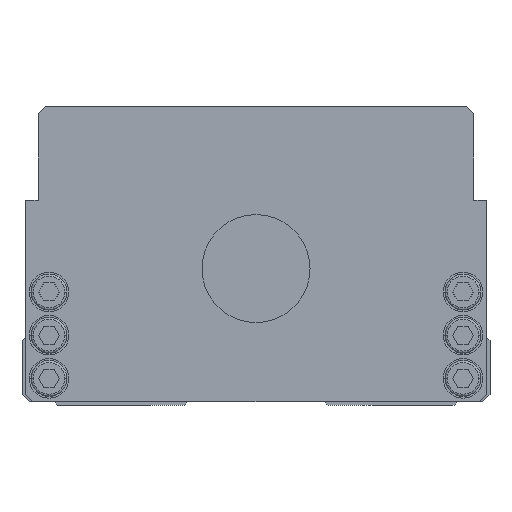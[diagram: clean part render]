
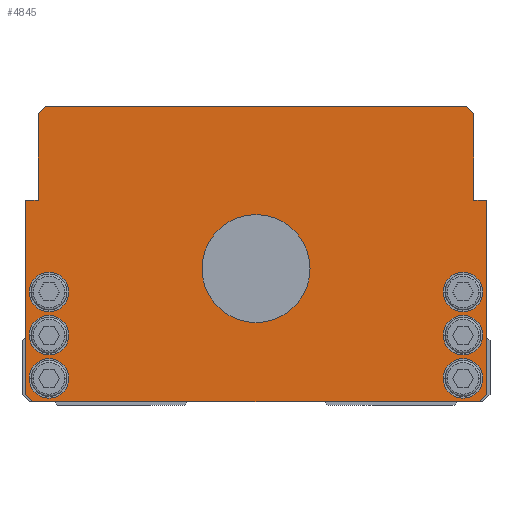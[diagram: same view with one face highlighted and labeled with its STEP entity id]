
A CAD part, front view. The second image highlights one B-rep face of the part: STEP entity #4845.
In plain terms, the highlighted planar face has unit normal (0, -1, 0).
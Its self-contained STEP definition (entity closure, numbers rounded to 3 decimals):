
#4309=VERTEX_POINT('',#12632);
#4655=EDGE_CURVE('',#8607,#12095,#13024,.T.);
#4713=VERTEX_POINT('',#13088);
#4845=ADVANCED_FACE('',(#13245,#13246,#13247,#13248,#13249,#13250,#13251,#13252),#13253,.T.);
#4863=VERTEX_POINT('',#13276);
#5027=EDGE_CURVE('',#9937,#6207,#13456,.T.);
#5225=EDGE_CURVE('',#11417,#11045,#13674,.T.);
#5279=EDGE_CURVE('',#12095,#8607,#13733,.T.);
#5379=EDGE_CURVE('',#11213,#6061,#13842,.T.);
#5443=EDGE_CURVE('',#6749,#10623,#13916,.T.);
#5445=EDGE_CURVE('',#9155,#4713,#13918,.T.);
#5621=EDGE_CURVE('',#9533,#8553,#14110,.T.);
#5967=EDGE_CURVE('',#6207,#9937,#14499,.T.);
#6009=VERTEX_POINT('',#14546);
#6033=EDGE_CURVE('',#12393,#4309,#14571,.T.);
#6061=VERTEX_POINT('',#14601);
#6207=VERTEX_POINT('',#14759);
#6519=VERTEX_POINT('',#15099);
#6749=VERTEX_POINT('',#15351);
#6915=VERTEX_POINT('',#15535);
#7019=EDGE_CURVE('',#4863,#11863,#15644,.T.);
#7235=EDGE_CURVE('',#8553,#10627,#15885,.T.);
#7515=VERTEX_POINT('',#16198);
#7727=EDGE_CURVE('',#6061,#11213,#16434,.T.);
#7807=EDGE_CURVE('',#6915,#12211,#16529,.T.);
#8553=VERTEX_POINT('',#17352);
#8607=VERTEX_POINT('',#17413);
#8659=EDGE_CURVE('',#8887,#6009,#17467,.T.);
#8887=VERTEX_POINT('',#17717);
#8929=EDGE_CURVE('',#11863,#8955,#17765,.T.);
#8955=VERTEX_POINT('',#17793);
#9039=EDGE_CURVE('',#8955,#7515,#17890,.T.);
#9105=EDGE_CURVE('',#11045,#9533,#17960,.T.);
#9155=VERTEX_POINT('',#18013);
#9231=EDGE_CURVE('',#6519,#4863,#18103,.T.);
#9533=VERTEX_POINT('',#18445);
#9561=EDGE_CURVE('',#7515,#11417,#18477,.T.);
#9937=VERTEX_POINT('',#18893);
#10623=VERTEX_POINT('',#19663);
#10627=VERTEX_POINT('',#19667);
#10991=EDGE_CURVE('',#10623,#6749,#20068,.T.);
#10995=EDGE_CURVE('',#4713,#9155,#20073,.T.);
#11029=EDGE_CURVE('',#4309,#6519,#20113,.T.);
#11045=VERTEX_POINT('',#20129);
#11213=VERTEX_POINT('',#20317);
#11417=VERTEX_POINT('',#20549);
#11477=EDGE_CURVE('',#10627,#12393,#20613,.T.);
#11863=VERTEX_POINT('',#21051);
#12095=VERTEX_POINT('',#21314);
#12143=EDGE_CURVE('',#6009,#8887,#21365,.T.);
#12169=EDGE_CURVE('',#12211,#6915,#21392,.T.);
#12211=VERTEX_POINT('',#21446);
#12393=VERTEX_POINT('',#21643);
#12632=CARTESIAN_POINT('',(62.0,0.0,1.0));
#13024=CIRCLE('',#22490,5.5);
#13088=CARTESIAN_POINT('',(-63.0,0.0,7.5));
#13245=FACE_BOUND('',#22768,.T.);
#13246=FACE_BOUND('',#22769,.T.);
#13247=FACE_BOUND('',#22770,.T.);
#13248=FACE_BOUND('',#22771,.T.);
#13249=FACE_BOUND('',#22772,.T.);
#13250=FACE_BOUND('',#22773,.T.);
#13251=FACE_BOUND('',#22774,.T.);
#13252=FACE_OUTER_BOUND('',#22775,.T.);
#13253=PLANE('',#22776);
#13276=CARTESIAN_POINT('',(-64.0,0.0,3.0));
#13456=CIRCLE('',#23048,5.5);
#13674=LINE('',#23354,#23355);
#13733=CIRCLE('',#23431,5.5);
#13842=CIRCLE('',#23580,15.0);
#13916=CIRCLE('',#23682,5.5);
#13918=CIRCLE('',#23685,5.5);
#14110=LINE('',#23960,#23961);
#14499=CIRCLE('',#24495,5.5);
#14546=CARTESIAN_POINT('',(52.0,0.0,19.5));
#14571=LINE('',#24601,#24602);
#14601=CARTESIAN_POINT('',(15.0,0.0,38.0));
#14759=CARTESIAN_POINT('',(52.0,0.0,31.5));
#15099=CARTESIAN_POINT('',(-62.0,0.0,1.0));
#15351=CARTESIAN_POINT('',(-63.0,0.0,19.5));
#15535=CARTESIAN_POINT('',(-52.0,0.0,31.5));
#15644=LINE('',#26111,#26112);
#15885=LINE('',#26453,#26454);
#16198=CARTESIAN_POINT('',(-60.5,0.0,81.0));
#16434=CIRCLE('',#27192,15.0);
#16529=CIRCLE('',#27314,5.5);
#17352=CARTESIAN_POINT('',(60.5,0.0,57.0));
#17413=CARTESIAN_POINT('',(52.0,0.0,7.5));
#17467=CIRCLE('',#28623,5.5);
#17717=CARTESIAN_POINT('',(63.0,0.0,19.5));
#17765=LINE('',#29034,#29035);
#17793=CARTESIAN_POINT('',(-60.5,0.0,57.0));
#17890=LINE('',#29196,#29197);
#17960=LINE('',#29298,#29299);
#18013=CARTESIAN_POINT('',(-52.0,0.0,7.5));
#18103=LINE('',#29503,#29504);
#18445=CARTESIAN_POINT('',(60.5,0.0,81.0));
#18477=LINE('',#30005,#30006);
#18893=CARTESIAN_POINT('',(63.0,0.0,31.5));
#19663=CARTESIAN_POINT('',(-52.0,0.0,19.5));
#19667=CARTESIAN_POINT('',(64.0,0.0,57.0));
#20068=CIRCLE('',#32169,5.5);
#20073=CIRCLE('',#32175,5.5);
#20113=LINE('',#32230,#32231);
#20129=CARTESIAN_POINT('',(58.5,0.0,83.0));
#20317=CARTESIAN_POINT('',(-15.0,0.0,38.0));
#20549=CARTESIAN_POINT('',(-58.5,0.0,83.0));
#20613=LINE('',#32892,#32893);
#21051=CARTESIAN_POINT('',(-64.0,0.0,57.0));
#21314=CARTESIAN_POINT('',(63.0,0.0,7.5));
#21365=CIRCLE('',#33914,5.5);
#21392=CIRCLE('',#33955,5.5);
#21446=CARTESIAN_POINT('',(-63.0,0.0,31.5));
#21643=CARTESIAN_POINT('',(64.0,0.0,3.0));
#22490=AXIS2_PLACEMENT_3D('',#35033,#35034,#35035);
#22768=EDGE_LOOP('',(#35274,#35275));
#22769=EDGE_LOOP('',(#35276,#35277));
#22770=EDGE_LOOP('',(#35278,#35279));
#22771=EDGE_LOOP('',(#35280,#35281));
#22772=EDGE_LOOP('',(#35282,#35283));
#22773=EDGE_LOOP('',(#35284,#35285));
#22774=EDGE_LOOP('',(#35286,#35287));
#22775=EDGE_LOOP('',(#35288,#35289,#35290,#35291,#35292,#35293,#35294,#35295,#35296,#35297,#35298,#35299));
#22776=AXIS2_PLACEMENT_3D('',#35300,#35301,#35302);
#23048=AXIS2_PLACEMENT_3D('',#35549,#35550,#35551);
#23354=CARTESIAN_POINT('',(58.5,0.0,83.0));
#23355=VECTOR('',#35821,1.0);
#23431=AXIS2_PLACEMENT_3D('',#35883,#35884,#35885);
#23580=AXIS2_PLACEMENT_3D('',#36003,#36004,#36005);
#23682=AXIS2_PLACEMENT_3D('',#36090,#36091,#36092);
#23685=AXIS2_PLACEMENT_3D('',#36093,#36094,#36095);
#23960=CARTESIAN_POINT('',(60.5,0.0,57.0));
#23961=VECTOR('',#36291,1.0);
#24495=AXIS2_PLACEMENT_3D('',#36819,#36820,#36821);
#24601=CARTESIAN_POINT('',(62.0,0.0,1.0));
#24602=VECTOR('',#36904,1.);
#26111=CARTESIAN_POINT('',(-64.0,0.0,57.0));
#26112=VECTOR('',#38064,1.0);
#26453=CARTESIAN_POINT('',(64.0,0.0,57.0));
#26454=VECTOR('',#38334,1.0);
#27192=AXIS2_PLACEMENT_3D('',#38954,#38955,#38956);
#27314=AXIS2_PLACEMENT_3D('',#39110,#39111,#39112);
#28623=AXIS2_PLACEMENT_3D('',#40103,#40104,#40105);
#29034=CARTESIAN_POINT('',(-60.5,0.0,57.0));
#29035=VECTOR('',#40444,1.0);
#29196=CARTESIAN_POINT('',(-60.5,0.0,81.0));
#29197=VECTOR('',#40615,1.0);
#29298=CARTESIAN_POINT('',(60.5,0.0,81.0));
#29299=VECTOR('',#40686,1.);
#29503=CARTESIAN_POINT('',(-64.0,0.0,3.0));
#29504=VECTOR('',#40875,1.);
#30005=CARTESIAN_POINT('',(-58.5,0.0,83.0));
#30006=VECTOR('',#41357,1.);
#32169=AXIS2_PLACEMENT_3D('',#43127,#43128,#43129);
#32175=AXIS2_PLACEMENT_3D('',#43139,#43140,#43141);
#32230=CARTESIAN_POINT('',(-62.0,0.0,1.0));
#32231=VECTOR('',#43197,1.0);
#32892=CARTESIAN_POINT('',(64.0,0.0,3.0));
#32893=VECTOR('',#43752,1.0);
#33914=AXIS2_PLACEMENT_3D('',#44698,#44699,#44700);
#33955=AXIS2_PLACEMENT_3D('',#44723,#44724,#44725);
#35033=CARTESIAN_POINT('',(57.5,0.0,7.5));
#35034=DIRECTION('',(-0.0,1.0,0.0));
#35035=DIRECTION('',(1.0,0.0,0.0));
#35274=ORIENTED_EDGE('',*,*,#7727,.T.);
#35275=ORIENTED_EDGE('',*,*,#5379,.T.);
#35276=ORIENTED_EDGE('',*,*,#5027,.T.);
#35277=ORIENTED_EDGE('',*,*,#5967,.T.);
#35278=ORIENTED_EDGE('',*,*,#8659,.T.);
#35279=ORIENTED_EDGE('',*,*,#12143,.T.);
#35280=ORIENTED_EDGE('',*,*,#5279,.T.);
#35281=ORIENTED_EDGE('',*,*,#4655,.T.);
#35282=ORIENTED_EDGE('',*,*,#7807,.T.);
#35283=ORIENTED_EDGE('',*,*,#12169,.T.);
#35284=ORIENTED_EDGE('',*,*,#10991,.T.);
#35285=ORIENTED_EDGE('',*,*,#5443,.T.);
#35286=ORIENTED_EDGE('',*,*,#5445,.T.);
#35287=ORIENTED_EDGE('',*,*,#10995,.T.);
#35288=ORIENTED_EDGE('',*,*,#9231,.F.);
#35289=ORIENTED_EDGE('',*,*,#11029,.F.);
#35290=ORIENTED_EDGE('',*,*,#6033,.F.);
#35291=ORIENTED_EDGE('',*,*,#11477,.F.);
#35292=ORIENTED_EDGE('',*,*,#7235,.F.);
#35293=ORIENTED_EDGE('',*,*,#5621,.F.);
#35294=ORIENTED_EDGE('',*,*,#9105,.F.);
#35295=ORIENTED_EDGE('',*,*,#5225,.F.);
#35296=ORIENTED_EDGE('',*,*,#9561,.F.);
#35297=ORIENTED_EDGE('',*,*,#9039,.F.);
#35298=ORIENTED_EDGE('',*,*,#8929,.F.);
#35299=ORIENTED_EDGE('',*,*,#7019,.F.);
#35300=CARTESIAN_POINT('',(0.,0.0,41.562));
#35301=DIRECTION('',(0.0,-1.0,0.0));
#35302=DIRECTION('',(1.0,0.0,0.0));
#35549=CARTESIAN_POINT('',(57.5,0.0,31.5));
#35550=DIRECTION('',(-0.0,1.0,0.0));
#35551=DIRECTION('',(1.0,0.0,0.0));
#35821=DIRECTION('',(1.0,0.0,0.0));
#35883=CARTESIAN_POINT('',(57.5,0.0,7.5));
#35884=DIRECTION('',(-0.0,1.0,0.0));
#35885=DIRECTION('',(1.0,0.0,0.0));
#36003=CARTESIAN_POINT('',(0.0,0.0,38.0));
#36004=DIRECTION('',(-0.0,1.0,0.0));
#36005=DIRECTION('',(1.0,0.0,0.0));
#36090=CARTESIAN_POINT('',(-57.5,0.0,19.5));
#36091=DIRECTION('',(-0.0,1.0,0.0));
#36092=DIRECTION('',(1.0,0.0,0.0));
#36093=CARTESIAN_POINT('',(-57.5,0.0,7.5));
#36094=DIRECTION('',(-0.0,1.0,0.0));
#36095=DIRECTION('',(1.0,0.0,0.0));
#36291=DIRECTION('',(-0.0,0.0,-1.0));
#36819=CARTESIAN_POINT('',(57.5,0.0,31.5));
#36820=DIRECTION('',(-0.0,1.0,0.0));
#36821=DIRECTION('',(1.0,0.0,0.0));
#36904=DIRECTION('',(-0.707,0.0,-0.707));
#38064=DIRECTION('',(0.0,0.0,1.0));
#38334=DIRECTION('',(1.0,0.0,0.0));
#38954=CARTESIAN_POINT('',(0.0,0.0,38.0));
#38955=DIRECTION('',(-0.0,1.0,0.0));
#38956=DIRECTION('',(1.0,0.0,0.0));
#39110=CARTESIAN_POINT('',(-57.5,0.0,31.5));
#39111=DIRECTION('',(-0.0,1.0,0.0));
#39112=DIRECTION('',(1.0,0.0,0.0));
#40103=CARTESIAN_POINT('',(57.5,0.0,19.5));
#40104=DIRECTION('',(-0.0,1.0,0.0));
#40105=DIRECTION('',(1.0,0.0,0.0));
#40444=DIRECTION('',(1.0,0.0,0.0));
#40615=DIRECTION('',(0.0,0.0,1.0));
#40686=DIRECTION('',(0.707,0.0,-0.707));
#40875=DIRECTION('',(-0.707,0.0,0.707));
#41357=DIRECTION('',(0.707,0.0,0.707));
#43127=CARTESIAN_POINT('',(-57.5,0.0,19.5));
#43128=DIRECTION('',(-0.0,1.0,0.0));
#43129=DIRECTION('',(1.0,0.0,0.0));
#43139=CARTESIAN_POINT('',(-57.5,0.0,7.5));
#43140=DIRECTION('',(-0.0,1.0,0.0));
#43141=DIRECTION('',(1.0,0.0,0.0));
#43197=DIRECTION('',(-1.0,0.0,-0.0));
#43752=DIRECTION('',(-0.0,0.0,-1.0));
#44698=CARTESIAN_POINT('',(57.5,0.0,19.5));
#44699=DIRECTION('',(-0.0,1.0,0.0));
#44700=DIRECTION('',(1.0,0.0,0.0));
#44723=CARTESIAN_POINT('',(-57.5,0.0,31.5));
#44724=DIRECTION('',(-0.0,1.0,0.0));
#44725=DIRECTION('',(1.0,0.0,0.0));
